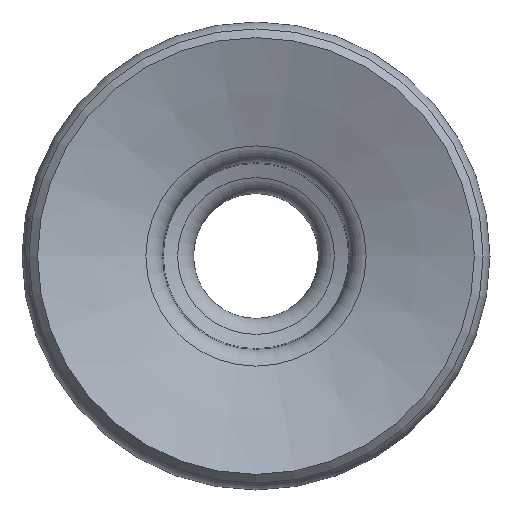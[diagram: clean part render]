
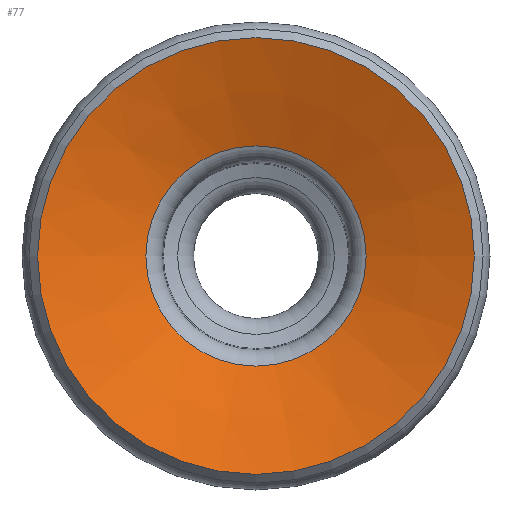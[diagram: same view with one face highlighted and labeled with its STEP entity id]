
A CAD part, front view. The second image highlights one B-rep face of the part: STEP entity #77.
In plain terms, the highlighted conical face has half-angle 70 degrees and reference radius 3.5 mm.
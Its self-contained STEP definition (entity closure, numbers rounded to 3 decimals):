
#77=ADVANCED_FACE('',(#116,#117),#118,.F.);
#116=FACE_BOUND('',#218,.T.);
#117=FACE_OUTER_BOUND('',#219,.T.);
#118=CONICAL_SURFACE('',#220,3.5,1.222);
#218=EDGE_LOOP('',(#324));
#219=EDGE_LOOP('',(#325));
#220=AXIS2_PLACEMENT_3D('',#326,#327,#328);
#324=ORIENTED_EDGE('',*,*,#487,.F.);
#325=ORIENTED_EDGE('',*,*,#486,.T.);
#326=CARTESIAN_POINT('',(0.0,0.0,0.0));
#327=DIRECTION('',(-0.0,-1.0,0.));
#328=DIRECTION('',(0.0,0.,-1.0));
#486=EDGE_CURVE('',#522,#522,#523,.T.);
#487=EDGE_CURVE('',#524,#524,#525,.T.);
#522=VERTEX_POINT('',#590);
#523=CIRCLE('',#591,3.5);
#524=VERTEX_POINT('',#592);
#525=CIRCLE('',#593,1.765);
#590=CARTESIAN_POINT('',(-3.5,0.0,0.0));
#591=AXIS2_PLACEMENT_3D('',#660,#661,#662);
#592=CARTESIAN_POINT('',(-1.765,0.632,0.0));
#593=AXIS2_PLACEMENT_3D('',#663,#664,#665);
#660=CARTESIAN_POINT('',(0.0,0.0,0.0));
#661=DIRECTION('',(0.0,-1.0,0.));
#662=DIRECTION('',(0.0,0.,-1.0));
#663=CARTESIAN_POINT('',(0.0,0.632,0.0));
#664=DIRECTION('',(0.0,-1.0,0.));
#665=DIRECTION('',(0.0,0.,-1.0));
